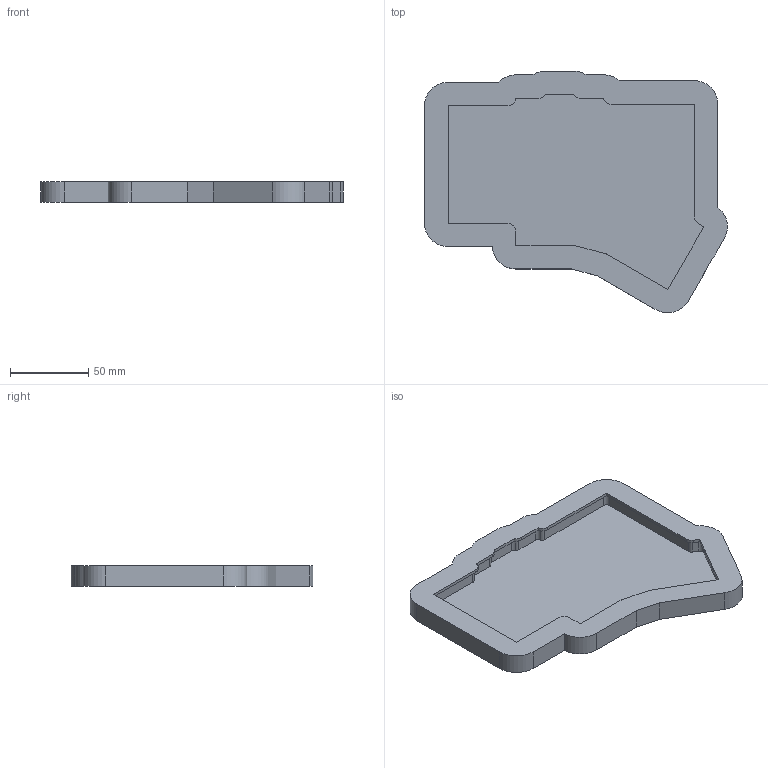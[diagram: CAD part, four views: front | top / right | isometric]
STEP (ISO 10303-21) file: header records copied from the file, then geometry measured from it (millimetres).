
FILE_DESCRIPTION(('Open CASCADE Model'),'2;1');
FILE_NAME('Open CASCADE Shape Model','2026-09-20T05:10:45',('Author'),( 'Open CASCADE'),'Open CASCADE STEP processor 8.0','Open CASCADE 8.0' ,'Unknown');
FILE_SCHEMA(('AP242_MANAGED_MODEL_BASED_3D_ENGINEERING_MIM_LF {1 0 10303 442 1 1 4 }' ));
Length unit declared in the file: millimetre
Products named in the file (1): Open CASCADE STEP translator 8.0 39
Bounding box: 193.41 x 154.41 x 13 mm (x, y, z)
Volume: 128569.7 mm3; surface area: 63187.6 mm2
Topology: 1 solids, 1 shells, 89 faces, 255 edges, 170 vertices
Faces by surface type: plane 47, cylinder 42
Entity records: 6411 total; most frequent: CARTESIAN_POINT 1331, DIRECTION 978, LINE 597, VECTOR 597, ORIENTED_EDGE 510, PCURVE 510, DEFINITIONAL_REPRESENTATION 510, EDGE_CURVE 255
